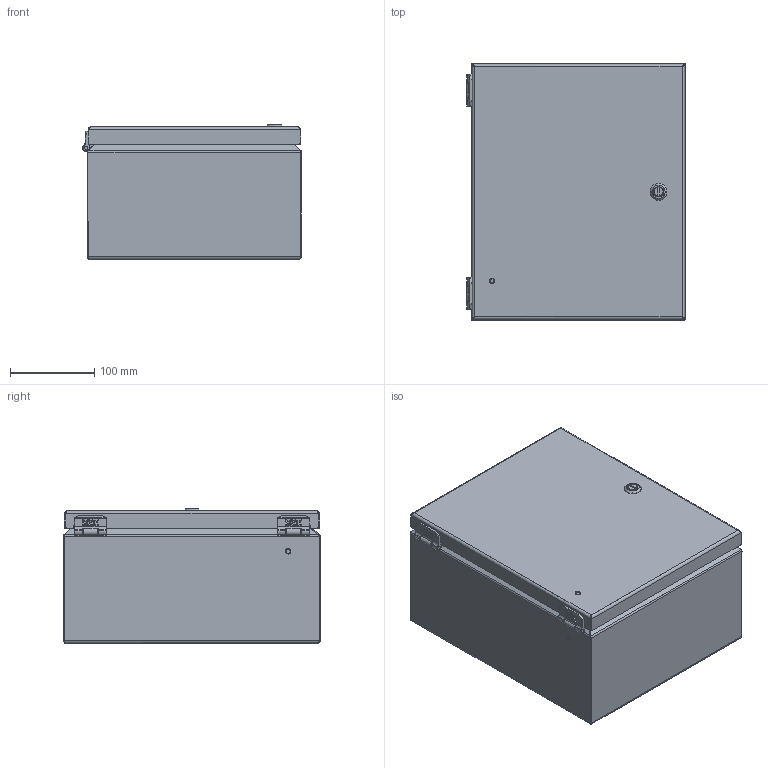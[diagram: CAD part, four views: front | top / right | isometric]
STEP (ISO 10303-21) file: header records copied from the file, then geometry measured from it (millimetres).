
FILE_DESCRIPTION((''),'2;1');
FILE_NAME('MODEL-059_ASM','2025-05-14T11:35:27',('joshi'),('SAGINAW CONTROL & ENGINEERING'),'CREO PARAMETRIC BY PTC INC, 2021284','CREO PARAMETRIC BY PTC INC, 2021284','');
FILE_SCHEMA(('AUTOMOTIVE_DESIGN { 1 0 10303 214 1 1 1 1 }'));
Length unit declared in the file: inch
Products named in the file (25): MODEL-059-BDY; MODEL-059-DR; 112643-BOX-LEAF; 112643-BOX-LEAF-STUD; 112643-BOX_ASM; 112643-DOOR-LEAF; 112643-DOOR-LEAF-STUD; 112643-DOOR_ASM; 112643-PIN; 112643_ASM; 113152; 100097; 100012; 112987_SHAFT; 112987_INSERT; 112984; 112987_SCREW; 112987_NUT; 112987_ASM; MODEL-059-GSKT; 120706; CH-ELJ_SUBPANEL; 102479; CH-ELJ_SUBPANEL-SUBASSEMBLY_ASM; MODEL-059_ASM
Assembly tree (35 placements, depth 4):
  MODEL-059_ASM
    MODEL-059-BDY
    MODEL-059-DR
    112643_ASM  x2
      112643-BOX_ASM
        112643-BOX-LEAF
        112643-BOX-LEAF-STUD
      112643-DOOR_ASM
        112643-DOOR-LEAF
        112643-DOOR-LEAF-STUD
      112643-PIN
    113152  x4
    100097  x2
    100012  x4
    112987_ASM
      112987_SHAFT
      112987_INSERT
      112984
      112987_SCREW
      112987_NUT
    MODEL-059-GSKT
    120706
    CH-ELJ_SUBPANEL-SUBASSEMBLY_ASM
      CH-ELJ_SUBPANEL
      102479  x4
Bounding box: 259.6 x 304.8 x 159.91 mm (x, y, z)
Volume: 703924.2 mm3; surface area: 866784.9 mm2
Topology: 34 solids, 36 shells, 3020 faces, 7743 edges, 4756 vertices
Faces by surface type: plane 1010, cylinder 886, bspline 862, cone 126, torus 116, sphere 20
Entity records: 104943 total; most frequent: CARTESIAN_POINT 56052, ORIENTED_EDGE 7350, DIRECTION 6180, PRESENTATION_STYLE_ASSIGNMENT 3844, STYLED_ITEM 3844, EDGE_CURVE 3675, CURVE_STYLE 3585, VERTEX_POINT 2294
